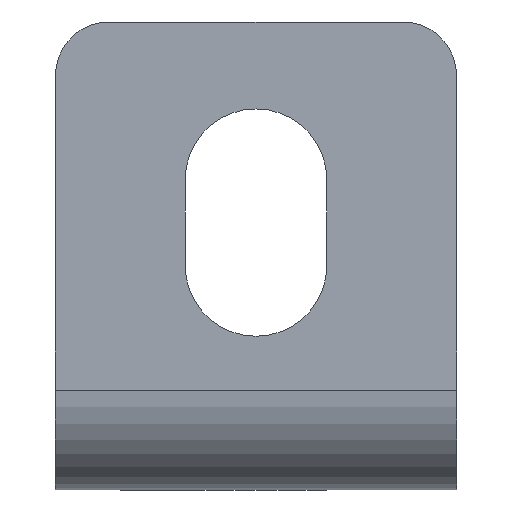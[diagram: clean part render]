
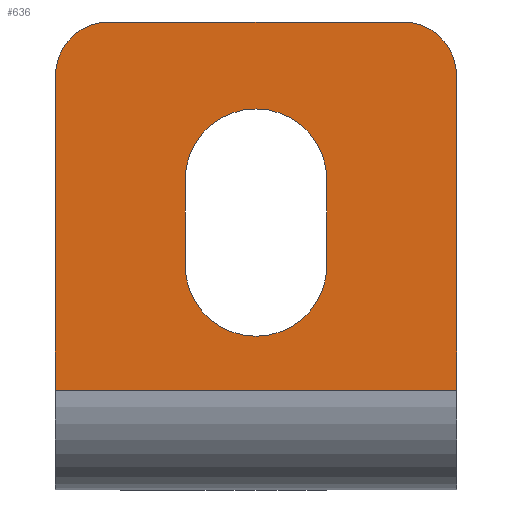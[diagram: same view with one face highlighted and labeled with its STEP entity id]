
A CAD part, front view. The second image highlights one B-rep face of the part: STEP entity #636.
In plain terms, the highlighted planar face has unit normal (0, -1, 0).
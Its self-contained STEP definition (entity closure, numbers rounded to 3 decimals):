
#3 = VERTEX_POINT ( 'NONE', #232 ) ;
#34 = DIRECTION ( 'NONE',  ( 0., 0., -1. ) ) ;
#35 = CARTESIAN_POINT ( 'NONE',  ( -7.5, 0., 0. ) ) ;
#43 = ORIENTED_EDGE ( 'NONE', *, *, #170, .T. ) ;
#61 = ORIENTED_EDGE ( 'NONE', *, *, #141, .T. ) ;
#62 = DIRECTION ( 'NONE',  ( 0., -1., 0. ) ) ;
#63 = AXIS2_PLACEMENT_3D ( 'NONE', #450, #810, #385 ) ;
#66 = CIRCLE ( 'NONE', #804, 2.65 ) ;
#73 = CARTESIAN_POINT ( 'NONE',  ( -2.65, 0., 8.4 ) ) ;
#74 = DIRECTION ( 'NONE',  ( 0., 0., -1. ) ) ;
#83 = CIRCLE ( 'NONE', #577, 2.65 ) ;
#92 = EDGE_CURVE ( 'NONE', #225, #763, #856, .T. ) ;
#109 = CIRCLE ( 'NONE', #685, 2. ) ;
#110 = DIRECTION ( 'NONE',  ( 0., 0., 1. ) ) ;
#115 = FACE_BOUND ( 'NONE', #205, .T. ) ;
#122 = VERTEX_POINT ( 'NONE', #892 ) ;
#130 = CARTESIAN_POINT ( 'NONE',  ( 7.5, 0., 3.737 ) ) ;
#134 = AXIS2_PLACEMENT_3D ( 'NONE', #923, #480, #74 ) ;
#141 = EDGE_CURVE ( 'NONE', #233, #502, #268, .T. ) ;
#147 = EDGE_CURVE ( 'NONE', #682, #651, #83, .T. ) ;
#170 = EDGE_CURVE ( 'NONE', #122, #545, #109, .T. ) ;
#205 = EDGE_LOOP ( 'NONE', ( #61, #544, #719, #868, #297 ) ) ;
#225 = VERTEX_POINT ( 'NONE', #130 ) ;
#232 = CARTESIAN_POINT ( 'NONE',  ( 2.65, 0., 11.6 ) ) ;
#233 = VERTEX_POINT ( 'NONE', #441 ) ;
#247 = DIRECTION ( 'NONE',  ( 0., 0., -1. ) ) ;
#257 = CARTESIAN_POINT ( 'NONE',  ( 7.5, 0., 0. ) ) ;
#262 = DIRECTION ( 'NONE',  ( 0., 1., 0. ) ) ;
#268 = CIRCLE ( 'NONE', #63, 2.65 ) ;
#297 = ORIENTED_EDGE ( 'NONE', *, *, #826, .T. ) ;
#306 = DIRECTION ( 'NONE',  ( 0., 0., 1. ) ) ;
#325 = CARTESIAN_POINT ( 'NONE',  ( 7.5, 0., 3.737 ) ) ;
#326 = EDGE_LOOP ( 'NONE', ( #842, #43, #419, #726, #391, #452 ) ) ;
#334 = VERTEX_POINT ( 'NONE', #649 ) ;
#338 = LINE ( 'NONE', #35, #515 ) ;
#365 = EDGE_CURVE ( 'NONE', #753, #545, #338, .T. ) ;
#366 = DIRECTION ( 'NONE',  ( 0., -1., 0. ) ) ;
#385 = DIRECTION ( 'NONE',  ( 0., 0., -1. ) ) ;
#391 = ORIENTED_EDGE ( 'NONE', *, *, #92, .T. ) ;
#398 = CARTESIAN_POINT ( 'NONE',  ( -5.5, 0., 15.5 ) ) ;
#401 = DIRECTION ( 'NONE',  ( 0., 0., -1. ) ) ;
#419 = ORIENTED_EDGE ( 'NONE', *, *, #365, .F. ) ;
#441 = CARTESIAN_POINT ( 'NONE',  ( -2.65, 0., 11.6 ) ) ;
#450 = CARTESIAN_POINT ( 'NONE',  ( 0., 0., 11.6 ) ) ;
#452 = ORIENTED_EDGE ( 'NONE', *, *, #554, .T. ) ;
#471 = EDGE_CURVE ( 'NONE', #225, #753, #814, .T. ) ;
#478 = CARTESIAN_POINT ( 'NONE',  ( -7.5, 0., 15.5 ) ) ;
#480 = DIRECTION ( 'NONE',  ( 0., -1., 0. ) ) ;
#485 = VECTOR ( 'NONE', #306, 1000. ) ;
#488 = EDGE_CURVE ( 'NONE', #502, #3, #66, .T. ) ;
#495 = DIRECTION ( 'NONE',  ( -1., 0., 0. ) ) ;
#497 = LINE ( 'NONE', #858, #669 ) ;
#502 = VERTEX_POINT ( 'NONE', #917 ) ;
#506 = DIRECTION ( 'NONE',  ( 0., 0., -1. ) ) ;
#508 = LINE ( 'NONE', #654, #485 ) ;
#514 = CARTESIAN_POINT ( 'NONE',  ( 7.5, 0., 0. ) ) ;
#515 = VECTOR ( 'NONE', #110, 1000. ) ;
#544 = ORIENTED_EDGE ( 'NONE', *, *, #488, .T. ) ;
#545 = VERTEX_POINT ( 'NONE', #478 ) ;
#548 = CARTESIAN_POINT ( 'NONE',  ( -7.5, 0., 3.737 ) ) ;
#554 = EDGE_CURVE ( 'NONE', #763, #334, #752, .T. ) ;
#577 = AXIS2_PLACEMENT_3D ( 'NONE', #664, #746, #34 ) ;
#616 = EDGE_CURVE ( 'NONE', #334, #122, #497, .T. ) ;
#618 = VECTOR ( 'NONE', #680, 1000. ) ;
#636 = ADVANCED_FACE ( 'NONE', ( #115, #843 ), #862, .T. ) ;
#637 = VECTOR ( 'NONE', #675, 1000. ) ;
#649 = CARTESIAN_POINT ( 'NONE',  ( 5.5, 0., 17.5 ) ) ;
#651 = VERTEX_POINT ( 'NONE', #73 ) ;
#654 = CARTESIAN_POINT ( 'NONE',  ( -2.65, 0., 11.6 ) ) ;
#664 = CARTESIAN_POINT ( 'NONE',  ( 0., 0., 8.4 ) ) ;
#669 = VECTOR ( 'NONE', #495, 1000. ) ;
#675 = DIRECTION ( 'NONE',  ( 0., 0., 1. ) ) ;
#680 = DIRECTION ( 'NONE',  ( -1., 0., 0. ) ) ;
#682 = VERTEX_POINT ( 'NONE', #688 ) ;
#684 = CARTESIAN_POINT ( 'NONE',  ( 0., 0., 11.6 ) ) ;
#685 = AXIS2_PLACEMENT_3D ( 'NONE', #398, #62, #401 ) ;
#687 = CARTESIAN_POINT ( 'NONE',  ( 7.5, 0., 15.5 ) ) ;
#688 = CARTESIAN_POINT ( 'NONE',  ( 2.65, 0., 8.4 ) ) ;
#719 = ORIENTED_EDGE ( 'NONE', *, *, #916, .T. ) ;
#726 = ORIENTED_EDGE ( 'NONE', *, *, #471, .F. ) ;
#745 = CARTESIAN_POINT ( 'NONE',  ( 2.65, 0., 11.6 ) ) ;
#746 = DIRECTION ( 'NONE',  ( 0., 1., 0. ) ) ;
#752 = CIRCLE ( 'NONE', #134, 2. ) ;
#753 = VERTEX_POINT ( 'NONE', #548 ) ;
#759 = DIRECTION ( 'NONE',  ( 0., 0., -1. ) ) ;
#763 = VERTEX_POINT ( 'NONE', #687 ) ;
#768 = AXIS2_PLACEMENT_3D ( 'NONE', #514, #366, #506 ) ;
#804 = AXIS2_PLACEMENT_3D ( 'NONE', #684, #262, #759 ) ;
#810 = DIRECTION ( 'NONE',  ( 0., 1., 0. ) ) ;
#814 = LINE ( 'NONE', #325, #618 ) ;
#826 = EDGE_CURVE ( 'NONE', #651, #233, #508, .T. ) ;
#837 = LINE ( 'NONE', #745, #852 ) ;
#842 = ORIENTED_EDGE ( 'NONE', *, *, #616, .T. ) ;
#843 = FACE_OUTER_BOUND ( 'NONE', #326, .T. ) ;
#852 = VECTOR ( 'NONE', #247, 1000. ) ;
#856 = LINE ( 'NONE', #257, #637 ) ;
#858 = CARTESIAN_POINT ( 'NONE',  ( 7.5, 0., 17.5 ) ) ;
#862 = PLANE ( 'NONE',  #768 ) ;
#868 = ORIENTED_EDGE ( 'NONE', *, *, #147, .T. ) ;
#892 = CARTESIAN_POINT ( 'NONE',  ( -5.5, 0., 17.5 ) ) ;
#916 = EDGE_CURVE ( 'NONE', #3, #682, #837, .T. ) ;
#917 = CARTESIAN_POINT ( 'NONE',  ( 0., 0., 14.25 ) ) ;
#923 = CARTESIAN_POINT ( 'NONE',  ( 5.5, 0., 15.5 ) ) ;
